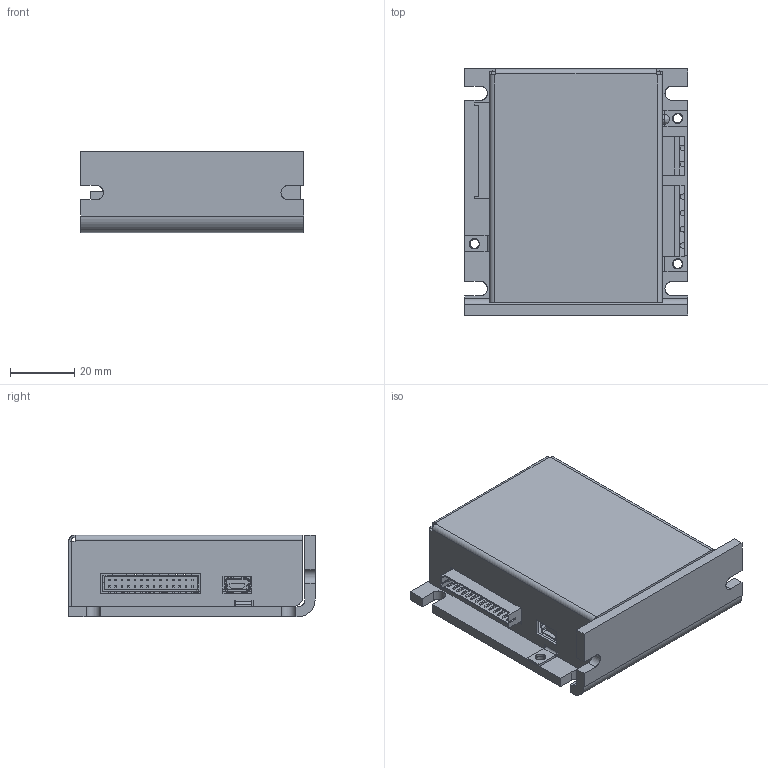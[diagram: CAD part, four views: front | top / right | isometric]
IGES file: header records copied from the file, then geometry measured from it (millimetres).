
Start section: SolidWorks IGES file using analytic representation for surfaces
Global section: file name: C:\Users\Engineering\Documents\Drawing\CAD\Arcus Enclosure\ACE-Assembly\ACE-SDE\ACE-SDE-external.IGS; native system: SolidWorks 2011; preprocessor: SolidWorks 2011; author: Engineering; date: 110801.095309; units: inch
Bounding box: 69.85 x 76.83 x 25.4 mm (x, y, z)
Surface area: 35491.8 mm2 (no closed solid volume)
Topology: 0 solids, 0 shells, 1451 faces, 10194 edges, 10170 vertices
Faces by surface type: bspline 1137, revolution 314
